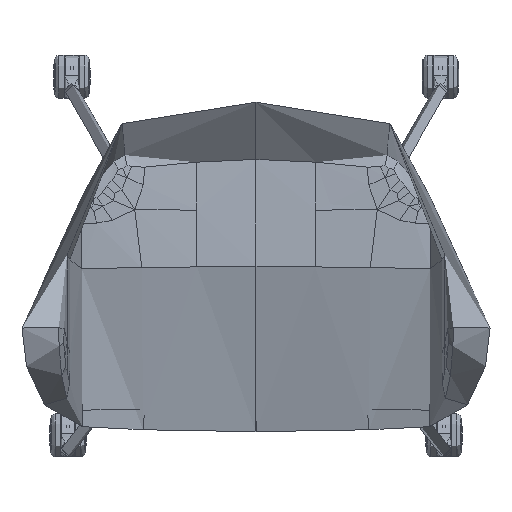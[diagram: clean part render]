
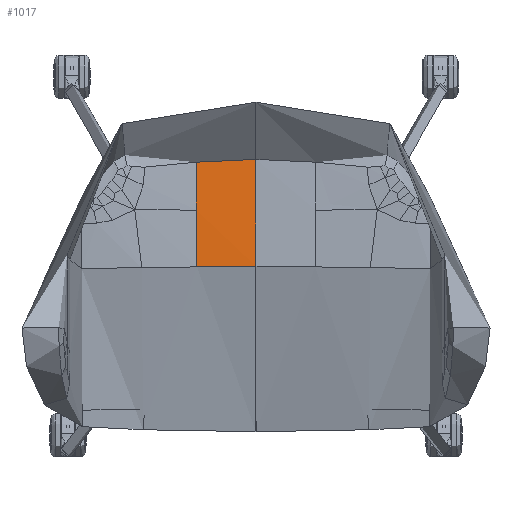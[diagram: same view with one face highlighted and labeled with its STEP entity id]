
A CAD part, top view. The second image highlights one B-rep face of the part: STEP entity #1017.
In plain terms, the highlighted free-form (B-spline) face has degree [3, 3] with [7, 7] control points.
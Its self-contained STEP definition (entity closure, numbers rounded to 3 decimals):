
#89=B_SPLINE_SURFACE_WITH_KNOTS('',3,3,((#34630,#34631,#34632,#34633,#34634,
#34635,#34636),(#34637,#34638,#34639,#34640,#34641,#34642,#34643),(#34644,
#34645,#34646,#34647,#34648,#34649,#34650),(#34651,#34652,#34653,#34654,
#34655,#34656,#34657),(#34658,#34659,#34660,#34661,#34662,#34663,#34664),
(#34665,#34666,#34667,#34668,#34669,#34670,#34671),(#34672,#34673,#34674,
#34675,#34676,#34677,#34678)),.UNSPECIFIED.,.F.,.F.,.F.,(4,1,1,1,4),(4,
1,1,1,4),(-2.,-1.,0.,1.,2.),(-2.,-1.,0.,1.,2.),.UNSPECIFIED.);
#1017=ADVANCED_FACE('',(#1604),#89,.T.);
#1604=FACE_OUTER_BOUND('',#2203,.T.);
#2203=EDGE_LOOP('',(#4352,#4353,#4354,#4355,#4356));
#4352=ORIENTED_EDGE('',*,*,#5891,.T.);
#4353=ORIENTED_EDGE('',*,*,#5794,.T.);
#4354=ORIENTED_EDGE('',*,*,#5792,.T.);
#4355=ORIENTED_EDGE('',*,*,#5890,.F.);
#4356=ORIENTED_EDGE('',*,*,#5889,.F.);
#5792=EDGE_CURVE('',#8381,#8386,#6609,.T.);
#5794=EDGE_CURVE('',#8382,#8381,#6611,.T.);
#5889=EDGE_CURVE('',#8457,#8455,#6706,.T.);
#5890=EDGE_CURVE('',#8455,#8386,#6707,.T.);
#5891=EDGE_CURVE('',#8457,#8382,#6708,.T.);
#6609=B_SPLINE_CURVE_WITH_KNOTS('',3,(#35603,#35604,#35605,#35606,#35607,
#35608,#35609,#35610,#35611),.UNSPECIFIED.,.F.,.F.,(4,1,1,1,1,1,4),(-2.,
-1.75,-1.5,-1.25,-1.,-0.5,0.),.UNSPECIFIED.);
#6611=B_SPLINE_CURVE_WITH_KNOTS('',3,(#35621,#35622,#35623,#35624,#35625,
#35626,#35627,#35628,#35629),.UNSPECIFIED.,.F.,.F.,(4,1,1,1,1,1,4),(-2.,
-1.5,-1.,-0.75,-0.5,-0.25,0.),.UNSPECIFIED.);
#6706=B_SPLINE_CURVE_WITH_KNOTS('',3,(#36422,#36423,#36424,#36425,#36426,
#36427,#36428),.UNSPECIFIED.,.F.,.F.,(4,1,1,1,4),(-2.,-1.,0.,1.,2.),
 .UNSPECIFIED.);
#6707=B_SPLINE_CURVE_WITH_KNOTS('',3,(#36429,#36430,#36431,#36432,#36433),
 .UNSPECIFIED.,.F.,.F.,(4,1,4),(0.5,0.75,1.),
 .UNSPECIFIED.);
#6708=B_SPLINE_CURVE_WITH_KNOTS('',3,(#36434,#36435,#36436,#36437,#36438),
 .UNSPECIFIED.,.F.,.F.,(4,1,4),(-0.5,-0.25,0.),
 .UNSPECIFIED.);
#8381=VERTEX_POINT('',#34712);
#8382=VERTEX_POINT('',#34713);
#8386=VERTEX_POINT('',#34717);
#8455=VERTEX_POINT('',#34786);
#8457=VERTEX_POINT('',#34788);
#34630=CARTESIAN_POINT('',(76.312,130.754,463.839));
#34631=CARTESIAN_POINT('',(76.256,123.355,464.888));
#34632=CARTESIAN_POINT('',(76.081,104.636,466.605));
#34633=CARTESIAN_POINT('',(75.733,70.023,468.59));
#34634=CARTESIAN_POINT('',(75.407,34.105,470.534));
#34635=CARTESIAN_POINT('',(75.195,9.774,471.791));
#34636=CARTESIAN_POINT('',(75.09,-2.368,472.407));
#34637=CARTESIAN_POINT('',(63.763,131.914,463.224));
#34638=CARTESIAN_POINT('',(63.723,124.455,464.293));
#34639=CARTESIAN_POINT('',(63.588,105.608,466.046));
#34640=CARTESIAN_POINT('',(63.313,70.757,468.078));
#34641=CARTESIAN_POINT('',(63.057,34.539,470.068));
#34642=CARTESIAN_POINT('',(62.891,10.018,471.356));
#34643=CARTESIAN_POINT('',(62.808,-2.203,471.988));
#34644=CARTESIAN_POINT('',(38.411,133.713,462.46));
#34645=CARTESIAN_POINT('',(38.392,126.185,463.536));
#34646=CARTESIAN_POINT('',(38.321,107.195,465.31));
#34647=CARTESIAN_POINT('',(38.17,72.035,467.388));
#34648=CARTESIAN_POINT('',(38.03,35.325,469.429));
#34649=CARTESIAN_POINT('',(37.941,10.474,470.751));
#34650=CARTESIAN_POINT('',(37.896,-1.882,471.399));
#34651=CARTESIAN_POINT('',(0.,134.673,462.235));
#34652=CARTESIAN_POINT('',(0.,127.13,463.29));
#34653=CARTESIAN_POINT('',(0.,108.118,465.044));
#34654=CARTESIAN_POINT('',(0.,72.849,467.124));
#34655=CARTESIAN_POINT('',(0.,35.854,469.17));
#34656=CARTESIAN_POINT('',(0.,10.793,470.495));
#34657=CARTESIAN_POINT('',(0.,-1.648,471.144));
#34658=CARTESIAN_POINT('',(-38.41,133.713,462.46));
#34659=CARTESIAN_POINT('',(-38.392,126.185,463.536));
#34660=CARTESIAN_POINT('',(-38.321,107.195,465.31));
#34661=CARTESIAN_POINT('',(-38.169,72.035,467.388));
#34662=CARTESIAN_POINT('',(-38.029,35.325,469.429));
#34663=CARTESIAN_POINT('',(-37.94,10.474,470.751));
#34664=CARTESIAN_POINT('',(-37.895,-1.882,471.399));
#34665=CARTESIAN_POINT('',(-63.762,131.914,463.224));
#34666=CARTESIAN_POINT('',(-63.722,124.455,464.293));
#34667=CARTESIAN_POINT('',(-63.587,105.608,466.046));
#34668=CARTESIAN_POINT('',(-63.312,70.757,468.078));
#34669=CARTESIAN_POINT('',(-63.056,34.539,470.068));
#34670=CARTESIAN_POINT('',(-62.891,10.018,471.356));
#34671=CARTESIAN_POINT('',(-62.808,-2.203,471.988));
#34672=CARTESIAN_POINT('',(-76.311,130.754,463.839));
#34673=CARTESIAN_POINT('',(-76.255,123.355,464.888));
#34674=CARTESIAN_POINT('',(-76.08,104.636,466.605));
#34675=CARTESIAN_POINT('',(-75.732,70.023,468.59));
#34676=CARTESIAN_POINT('',(-75.406,34.105,470.534));
#34677=CARTESIAN_POINT('',(-75.195,9.774,471.791));
#34678=CARTESIAN_POINT('',(-75.089,-2.368,472.407));
#34712=CARTESIAN_POINT('',(-75.736,69.805,468.583));
#34713=CARTESIAN_POINT('',(-76.311,130.754,463.839));
#34717=CARTESIAN_POINT('',(-75.089,-2.368,472.407));
#34786=CARTESIAN_POINT('',(0.,-1.726,471.229));
#34788=CARTESIAN_POINT('',(0.,134.353,462.31));
#35603=CARTESIAN_POINT('',(-75.736,69.805,468.583));
#35604=CARTESIAN_POINT('',(-75.708,66.866,468.747));
#35605=CARTESIAN_POINT('',(-75.652,60.962,469.074));
#35606=CARTESIAN_POINT('',(-75.57,52.034,469.561));
#35607=CARTESIAN_POINT('',(-75.488,43.048,470.044));
#35608=CARTESIAN_POINT('',(-75.381,31.003,470.685));
#35609=CARTESIAN_POINT('',(-75.248,15.857,471.477));
#35610=CARTESIAN_POINT('',(-75.142,3.703,472.099));
#35611=CARTESIAN_POINT('',(-75.089,-2.368,472.407));
#35621=CARTESIAN_POINT('',(-76.311,130.754,463.839));
#35622=CARTESIAN_POINT('',(-76.283,127.054,464.363));
#35623=CARTESIAN_POINT('',(-76.211,118.675,465.317));
#35624=CARTESIAN_POINT('',(-76.093,106.295,466.329));
#35625=CARTESIAN_POINT('',(-75.988,95.574,467.065));
#35626=CARTESIAN_POINT('',(-75.905,87.207,467.588));
#35627=CARTESIAN_POINT('',(-75.821,78.594,468.092));
#35628=CARTESIAN_POINT('',(-75.764,72.744,468.42));
#35629=CARTESIAN_POINT('',(-75.736,69.805,468.583));
#36422=CARTESIAN_POINT('',(0.,134.353,462.31));
#36423=CARTESIAN_POINT('',(0.,126.815,463.372));
#36424=CARTESIAN_POINT('',(0.,107.811,465.133));
#36425=CARTESIAN_POINT('',(0.,72.578,467.212));
#36426=CARTESIAN_POINT('',(0.,35.678,469.256));
#36427=CARTESIAN_POINT('',(0.,10.687,470.58));
#36428=CARTESIAN_POINT('',(0.,-1.726,471.229));
#36429=CARTESIAN_POINT('',(0.,-1.726,471.229));
#36430=CARTESIAN_POINT('',(-12.632,-1.726,471.229));
#36431=CARTESIAN_POINT('',(-37.895,-1.882,471.399));
#36432=CARTESIAN_POINT('',(-62.808,-2.203,471.988));
#36433=CARTESIAN_POINT('',(-75.089,-2.368,472.407));
#36434=CARTESIAN_POINT('',(0.,134.353,462.31));
#36435=CARTESIAN_POINT('',(-12.803,134.353,462.31));
#36436=CARTESIAN_POINT('',(-38.41,133.713,462.46));
#36437=CARTESIAN_POINT('',(-63.762,131.914,463.224));
#36438=CARTESIAN_POINT('',(-76.311,130.754,463.839));
